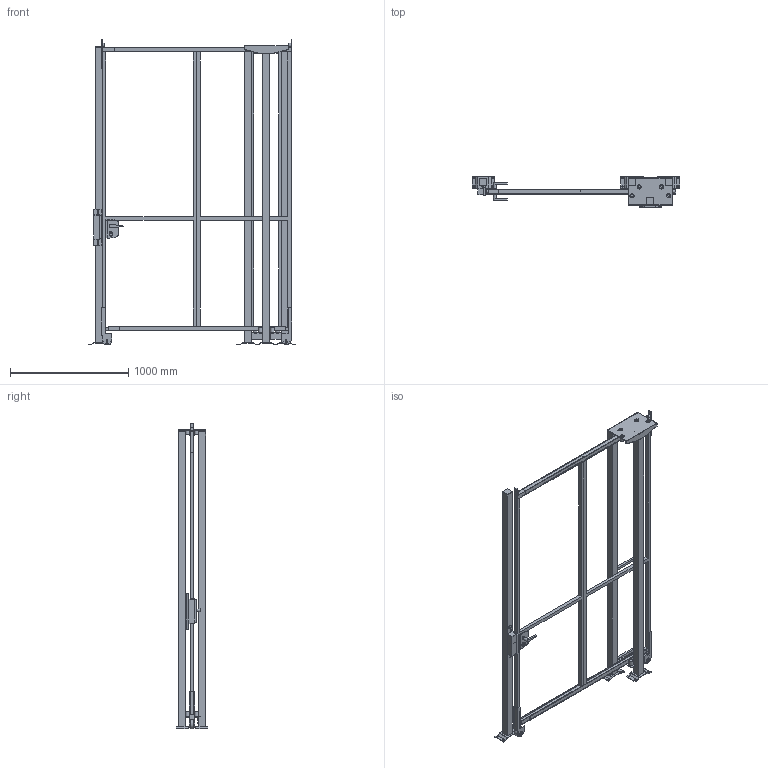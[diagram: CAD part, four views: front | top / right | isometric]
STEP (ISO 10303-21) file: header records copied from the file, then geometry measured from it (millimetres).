
FILE_DESCRIPTION(/* description */ (''),/* implementation_level */ '2;1');
FILE_NAME(/* name */ 'C:\SafeGuarding\ELABORATI\KLADKOUGAMMA_2025-03-21-10-17-45.stp',/* time_stamp */ '2025-03-21T10:17:49+01:00',/* author */ ('admin'),/* organization */ (''),/* preprocessor_version */ 'ST-DEVELOPER v18.1',/* originating_system */ 'AutoCAD Mechanical',/* authorisation */ '');
FILE_SCHEMA (('AUTOMOTIVE_DESIGN { 1 0 10303 214 3 1 1 }'));
Length unit declared in the file: millimetre
Products named in the file (4): Product; VFPA.REPE30.08002400; VFPA.REPE2002502400; P_VFMA.V260SDU.2520
Assembly tree (7 placements, depth 2):
  Product
    VFPA.REPE30.08002400  x2
    P_VFMA.V260SDU.2520  x4
    VFPA.REPE2002502400
Bounding box: 1761.91 x 264 x 2590.02 mm (x, y, z)
Volume: 55643157.4 mm3; surface area: 7013888.9 mm2
Topology: 55 solids, 55 shells, 554 faces, 1637 edges, 1530 vertices
Faces by surface type: plane 476, cylinder 74, bspline 4
Full cylindrical faces by diameter (mm): 9 x4, 11 x16, 13 x4, 18 x1, 25 x2, 25.398 x2, 30 x6, 36 x8, 80 x2
Entity records: 15774 total; most frequent: CARTESIAN_POINT 4094, DIRECTION 2331, ORIENTED_EDGE 2134, EDGE_CURVE 1067, LINE 1017, VECTOR 1017, VERTEX_POINT 718, AXIS2_PLACEMENT_3D 657
